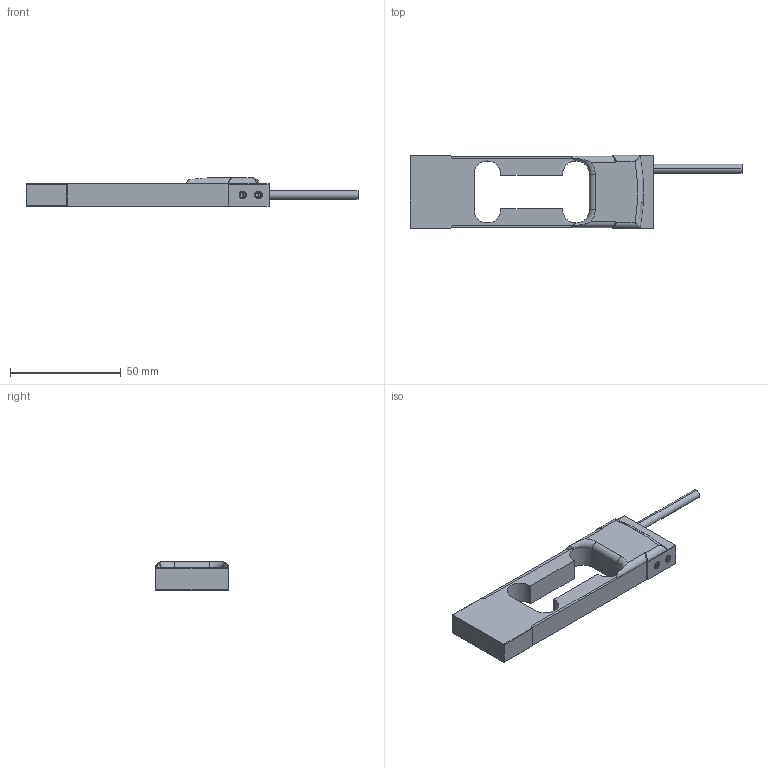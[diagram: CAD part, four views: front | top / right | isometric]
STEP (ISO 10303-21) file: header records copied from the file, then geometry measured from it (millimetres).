
FILE_DESCRIPTION (( 'STEP AP203' ), '1' );
FILE_NAME ('LCE08.STEP', '2024-11-28T08:16:23', ( '' ), ( '' ), 'SwSTEP 2.0', 'SolidWorks 2019', '' );
FILE_SCHEMA (( 'CONFIG_CONTROL_DESIGN' ));
Length unit declared in the file: millimetre
Products named in the file (1): LCE08
Bounding box: 150 x 33 x 12.7 mm (x, y, z)
Volume: 27708.3 mm3; surface area: 15473.1 mm2
Topology: 5 solids, 5 shells, 272 faces, 744 edges, 478 vertices
Faces by surface type: cylinder 177, plane 62, cone 16, bspline 12, torus 5
Entity records: 29265 total; most frequent: CARTESIAN_POINT 23366, ORIENTED_EDGE 1472, DIRECTION 975, EDGE_CURVE 736, VERTEX_POINT 478, AXIS2_PLACEMENT_3D 327, LINE 321, VECTOR 321
